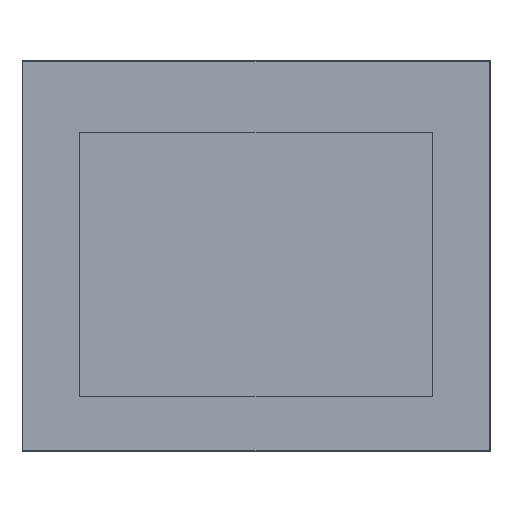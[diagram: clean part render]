
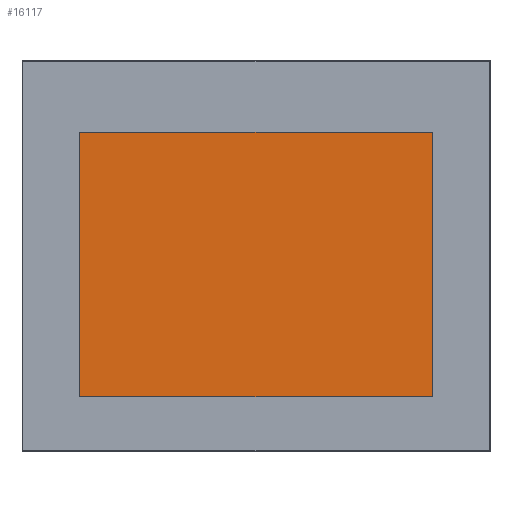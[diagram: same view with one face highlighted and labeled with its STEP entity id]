
A CAD part, top view. The second image highlights one B-rep face of the part: STEP entity #16117.
In plain terms, the highlighted planar face has unit normal (0, 0, 1).
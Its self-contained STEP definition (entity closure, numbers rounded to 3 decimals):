
#2 = DIRECTION ( 'NONE',  ( 1., 0., 0. ) ) ;
#407 = VERTEX_POINT ( 'NONE', #9214 ) ;
#669 = VECTOR ( 'NONE', #9682, 1000. ) ;
#1262 = PLANE ( 'NONE',  #3892 ) ;
#1934 = VECTOR ( 'NONE', #6336, 1000. ) ;
#2599 = DIRECTION ( 'NONE',  ( 0., 1., 0. ) ) ;
#2814 = VERTEX_POINT ( 'NONE', #2846 ) ;
#2846 = CARTESIAN_POINT ( 'NONE',  ( 244.815, 32.785, 3.9 ) ) ;
#3162 = LINE ( 'NONE', #5602, #13277 ) ;
#3566 = FACE_OUTER_BOUND ( 'NONE', #13274, .T. ) ;
#3892 = AXIS2_PLACEMENT_3D ( 'NONE', #15809, #7896, #2 ) ;
#4992 = ORIENTED_EDGE ( 'NONE', *, *, #14146, .T. ) ;
#5244 = CARTESIAN_POINT ( 'NONE',  ( 244.815, 190.615, 3.9 ) ) ;
#5406 = EDGE_CURVE ( 'NONE', #7657, #407, #15956, .T. ) ;
#5602 = CARTESIAN_POINT ( 'NONE',  ( 244.815, 190.615, 3.9 ) ) ;
#6336 = DIRECTION ( 'NONE',  ( 0., -1., 0. ) ) ;
#6578 = LINE ( 'NONE', #9154, #9666 ) ;
#6912 = DIRECTION ( 'NONE',  ( -1., 0., 0. ) ) ;
#7657 = VERTEX_POINT ( 'NONE', #11734 ) ;
#7690 = LINE ( 'NONE', #8360, #669 ) ;
#7896 = DIRECTION ( 'NONE',  ( 0., 0., 1. ) ) ;
#8360 = CARTESIAN_POINT ( 'NONE',  ( 34.385, 32.785, 3.9 ) ) ;
#9141 = EDGE_CURVE ( 'NONE', #407, #2814, #7690, .T. ) ;
#9154 = CARTESIAN_POINT ( 'NONE',  ( 244.815, 32.785, 3.9 ) ) ;
#9214 = CARTESIAN_POINT ( 'NONE',  ( 34.385, 32.785, 3.9 ) ) ;
#9520 = VERTEX_POINT ( 'NONE', #5244 ) ;
#9580 = ORIENTED_EDGE ( 'NONE', *, *, #5406, .T. ) ;
#9666 = VECTOR ( 'NONE', #2599, 1000. ) ;
#9682 = DIRECTION ( 'NONE',  ( 1., 0., 0. ) ) ;
#11392 = ORIENTED_EDGE ( 'NONE', *, *, #15829, .T. ) ;
#11734 = CARTESIAN_POINT ( 'NONE',  ( 34.385, 190.615, 3.9 ) ) ;
#12612 = ORIENTED_EDGE ( 'NONE', *, *, #9141, .T. ) ;
#13274 = EDGE_LOOP ( 'NONE', ( #4992, #11392, #9580, #12612 ) ) ;
#13277 = VECTOR ( 'NONE', #6912, 1000. ) ;
#14146 = EDGE_CURVE ( 'NONE', #2814, #9520, #6578, .T. ) ;
#15809 = CARTESIAN_POINT ( 'NONE',  ( 139.6, 111.7, 3.9 ) ) ;
#15829 = EDGE_CURVE ( 'NONE', #9520, #7657, #3162, .T. ) ;
#15956 = LINE ( 'NONE', #16911, #1934 ) ;
#16117 = ADVANCED_FACE ( 'NONE', ( #3566 ), #1262, .T. ) ;
#16911 = CARTESIAN_POINT ( 'NONE',  ( 34.385, 190.615, 3.9 ) ) ;
